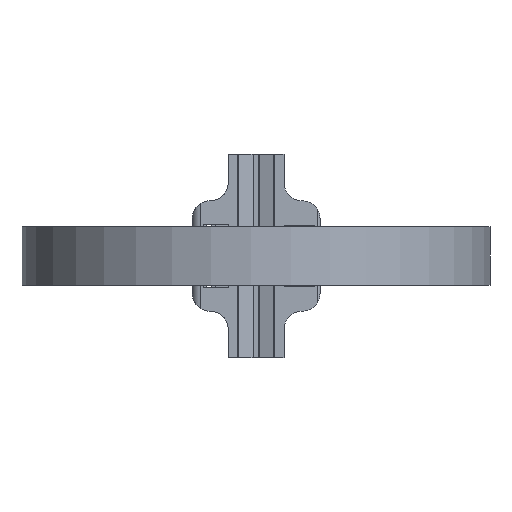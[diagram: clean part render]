
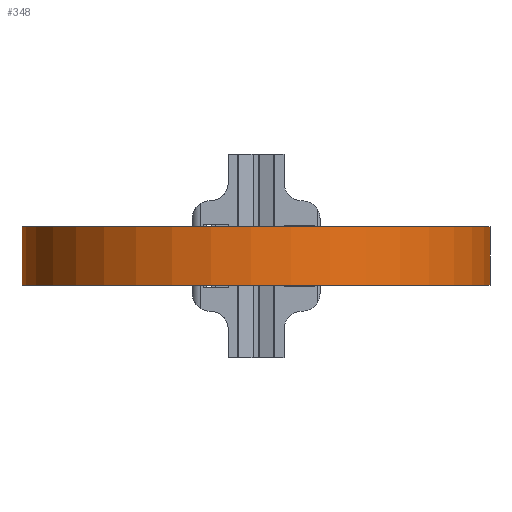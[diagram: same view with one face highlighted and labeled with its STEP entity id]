
A CAD part, front view. The second image highlights one B-rep face of the part: STEP entity #348.
In plain terms, the highlighted cylindrical face has radius 40.3 mm (diameter 80.6 mm), a partial arc.
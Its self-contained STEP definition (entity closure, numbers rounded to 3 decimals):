
#348 = ADVANCED_FACE( '', ( #730 ), #731, .T. );
#730 = FACE_OUTER_BOUND( '', #1137, .T. );
#731 = CYLINDRICAL_SURFACE( '', #1138, 40.3 );
#1137 = EDGE_LOOP( '', ( #2143, #2144, #2145, #2146 ) );
#1138 = AXIS2_PLACEMENT_3D( '', #2147, #2148, #2149 );
#2143 = ORIENTED_EDGE( '', *, *, #2883, .T. );
#2144 = ORIENTED_EDGE( '', *, *, #2884, .F. );
#2145 = ORIENTED_EDGE( '', *, *, #2829, .F. );
#2146 = ORIENTED_EDGE( '', *, *, #2871, .T. );
#2147 = CARTESIAN_POINT( '', ( 0., -40.15, 5. ) );
#2148 = DIRECTION( '', ( 0., 0., 1. ) );
#2149 = DIRECTION( '', ( -1., 0., 0. ) );
#2829 = EDGE_CURVE( '', #3526, #3528, #3529, .T. );
#2871 = EDGE_CURVE( '', #3526, #3583, #3585, .T. );
#2883 = EDGE_CURVE( '', #3583, #3598, #3599, .T. );
#2884 = EDGE_CURVE( '', #3528, #3598, #3600, .T. );
#3526 = VERTEX_POINT( '', #4573 );
#3528 = VERTEX_POINT( '', #4575 );
#3529 = CIRCLE( '', #4576, 40.3 );
#3583 = VERTEX_POINT( '', #4652 );
#3585 = LINE( '', #4654, #4655 );
#3598 = VERTEX_POINT( '', #4671 );
#3599 = CIRCLE( '', #4672, 40.3 );
#3600 = LINE( '', #4673, #4674 );
#4573 = CARTESIAN_POINT( '', ( -8.138, -0.68, 5. ) );
#4575 = CARTESIAN_POINT( '', ( 10.025, -1.117, 5. ) );
#4576 = AXIS2_PLACEMENT_3D( '', #5172, #5173, #5174 );
#4652 = CARTESIAN_POINT( '', ( -8.138, -0.68, -5. ) );
#4654 = CARTESIAN_POINT( '', ( -8.138, -0.68, 5. ) );
#4655 = VECTOR( '', #5227, 1000. );
#4671 = CARTESIAN_POINT( '', ( 10.025, -1.117, -5. ) );
#4672 = AXIS2_PLACEMENT_3D( '', #5240, #5241, #5242 );
#4673 = CARTESIAN_POINT( '', ( 10.025, -1.117, 5. ) );
#4674 = VECTOR( '', #5243, 1000. );
#5172 = CARTESIAN_POINT( '', ( 0., -40.15, 5. ) );
#5173 = DIRECTION( '', ( 0., 0., 1. ) );
#5174 = DIRECTION( '', ( 1., 0., 0. ) );
#5227 = DIRECTION( '', ( 0., 0., -1. ) );
#5240 = CARTESIAN_POINT( '', ( 0., -40.15, -5. ) );
#5241 = DIRECTION( '', ( 0., 0., 1. ) );
#5242 = DIRECTION( '', ( 1., 0., 0. ) );
#5243 = DIRECTION( '', ( 0., 0., -1. ) );
